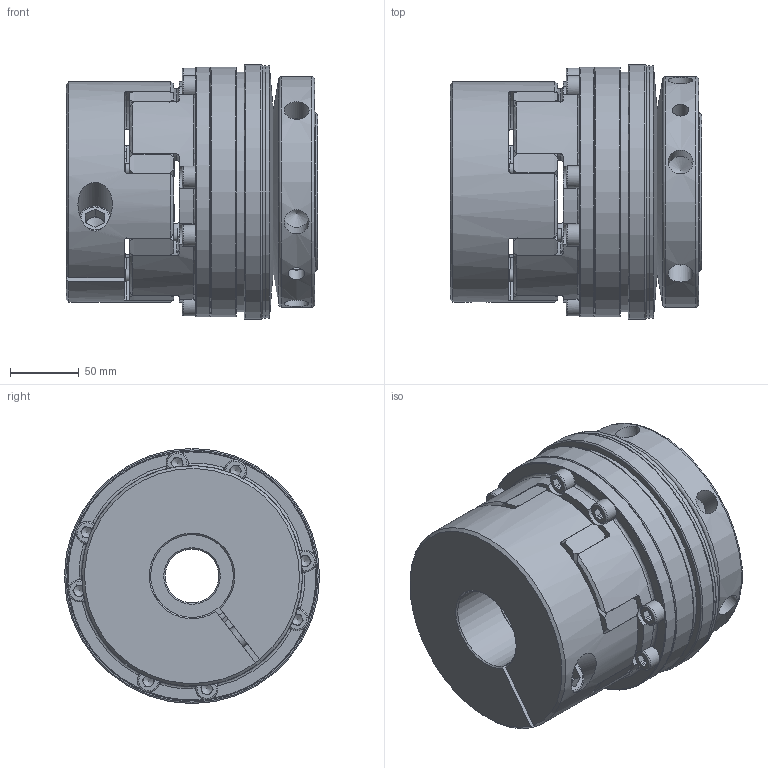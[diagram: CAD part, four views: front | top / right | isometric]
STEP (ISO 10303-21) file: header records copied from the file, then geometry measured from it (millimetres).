
FILE_DESCRIPTION( ( 'Unknown' ), '1' );
FILE_NAME( 'F:/JAKOB-STEP+IGES-Dateien/STEP-Dateien/SKW-EK/SKW-EK 2000.stp', 'Unknown', ( 'Unknown' ), ( 'Unknown' ), 'PSStep 10.1', 'Unknown', ' ' );
FILE_SCHEMA( ( 'AUTOMOTIVE_DESIGN { 1 0 10303 214 1 1 1 1 }' ) );
Length unit declared in the file: millimetre
Products named in the file (3): kt101715
Bounding box: 182.5 x 185 x 185 mm (x, y, z)
Volume: 3259222 mm3; surface area: 442573.2 mm2
Topology: 6 solids, 19 shells, 728 faces, 1991 edges, 1289 vertices
Faces by surface type: plane 288, cylinder 160, torus 118, cone 112, sphere 30, extrusion 20
Full cylindrical faces by diameter (mm): 8.5 x6, 9 x8, 10 x9, 10.4 x8, 12 x2, 13.835 x1, 16 x9, 17 x1, 18 x6, 24 x1, 25 x1, 39 x1, 60 x1, 77 x2, 95 x1, 107.7 x1, 109.8 x1, 110 x2, 114.98 x1, 115 x3, 116 x1, 120 x2, 128 x1, 130 x2, 140 x3, 168 x1, 174 x1, 181 x2, 185 x1
Entity records: 32486 total; most frequent: CARTESIAN_POINT 10175, DIRECTION 3300, ORIENTED_EDGE 3272, EDGE_CURVE 1636, AXIS2_PLACEMENT_3D 1379, VERTEX_POINT 1140, EDGE_LOOP 995, FACE_OUTER_BOUND 815
